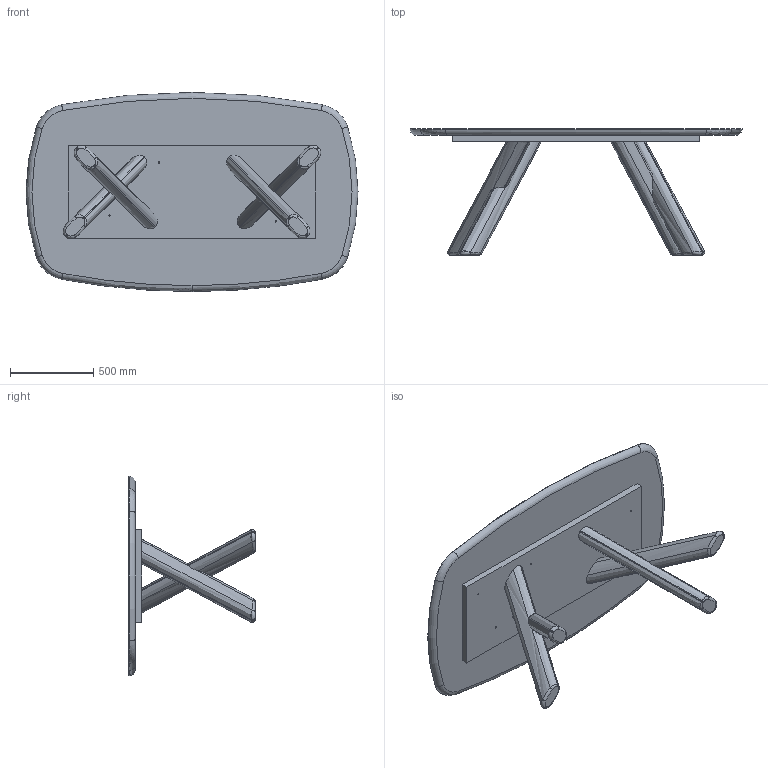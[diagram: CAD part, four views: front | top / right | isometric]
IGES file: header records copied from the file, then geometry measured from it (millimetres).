
Start section: SolidWorks IGES file using analytic representation for surfaces
Global section: file name: Y:\eforma\TECNICO\SOLIDWORKS\E-FORMA\1-TAVOLI\CANOVA\08 modelli 3D web\CN41W_CANOVA_top legno 200x120x76h sag.IGS; native system: SolidWorks 2022; preprocessor: SolidWorks 2022; author: eforma.tech; date: 250415.091236; units: millimetre
Bounding box: 2000 x 760 x 1200 mm (x, y, z)
Volume: 152304234.7 mm3; surface area: 7754293.8 mm2
Topology: 6 solids, 6 shells, 174 faces, 419 edges, 263 vertices
Faces by surface type: revolution 116, bspline 36, plane 22
